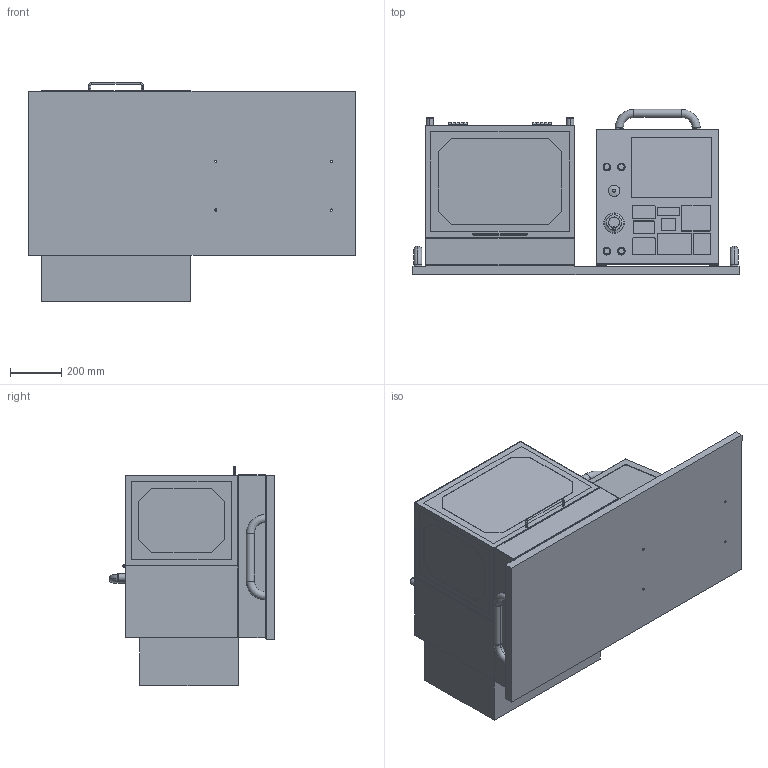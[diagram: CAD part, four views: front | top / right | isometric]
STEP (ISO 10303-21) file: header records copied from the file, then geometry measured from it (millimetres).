
FILE_DESCRIPTION (( 'STEP AP203' ), '1' );
FILE_NAME ('10000261264 Desktop lathe master assembly.STEP', '2024-04-19T16:33:17', ( '' ), ( '' ), 'SwSTEP 2.0', 'SolidWorks 2022', '' );
FILE_SCHEMA (( 'CONFIG_CONTROL_DESIGN' ));
Length unit declared in the file: inch
Products named in the file (9): 10000252674 desktop lathe main body assembly; 10000252674 desktop lathe saddle assembly with waycover; 10000261264 test parts-base tray and encllosure; 10000261264 Desktop lathe master assembly; 10000252674 desktop lathe chuck assembly; 10000261264 test parts-1lid-1; 10000261264 control panel-1; 10000252674 desktop lathe table assembly with waycover; 10000252674 desktop lathe turret assembly
Assembly tree (8 placements, depth 2):
  10000261264 Desktop lathe master assembly
    10000252674 desktop lathe chuck assembly
    10000252674 desktop lathe main body assembly
    10000252674 desktop lathe saddle assembly with waycover
    10000252674 desktop lathe table assembly with waycover
    10000252674 desktop lathe turret assembly
    10000261264 test parts-1lid-1
    10000261264 control panel-1
    10000261264 test parts-base tray and encllosure
Bounding box: 1270 x 643.57 x 854.1 mm (x, y, z)
Volume: 120443961.3 mm3; surface area: 8190272.3 mm2
Topology: 21 solids, 65 shells, 3471 faces, 9981 edges, 6782 vertices
Faces by surface type: plane 1952, cylinder 1025, bspline 258, cone 196, torus 32, sphere 8
Entity records: 137892 total; most frequent: CARTESIAN_POINT 47402, ORIENTED_EDGE 19862, DIRECTION 17282, EDGE_CURVE 9931, VERTEX_POINT 6782, AXIS2_PLACEMENT_3D 5862, LINE 5558, VECTOR 5558
